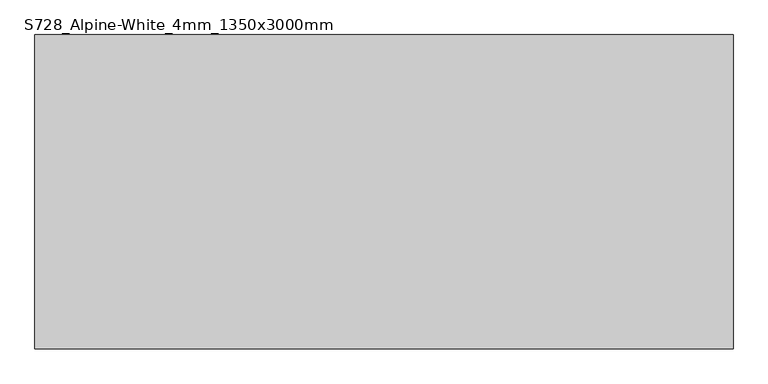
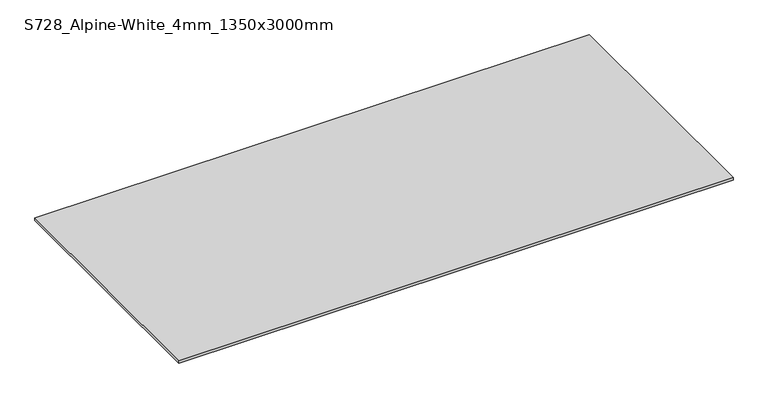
"""IFC4 building model written with IfcOpenShell, lengths in millimetres: proxy geometry, Kitchen_Counter-Tops_Indoor-Material_HI-MACS_Solids : S728_Alpine-White_4mm_1350x3000mm."""

from ifc_helpers import new_model, si_unit, origin, origin_with_axes, place, context, project, spatial, polyline, outline, extrude, source, transform, mapped, element, save


def s728_alpine_white_4mm_1350x3000mm_ca04285e(model_context):
    return source(origin(), model_context, "Body", "SweptSolid", [
        extrude(outline(polyline([(1500.0, 675.0), (1500.0, -675.0), (-1500.0, -675.0), (-1500.0, 675.0), (1500.0, 675.0)])), origin_with_axes(), (0.0, 0.0, 1.0), 12.0),
    ])


if __name__ == "__main__":
    model = new_model("IFC4")
    model_context = context("Model", 3, world=origin())
    ifc_project = project(units=[si_unit("LENGTHUNIT", "METRE", prefix="MILLI")], contexts=[model_context])
    site = spatial("IfcSite", under=ifc_project)
    building = spatial("IfcBuilding", under=site)
    placement = place(None, origin())
    s728_alpine_white_4mm_1350x3000mm_shape = s728_alpine_white_4mm_1350x3000mm_ca04285e(model_context)
    element("IfcBuildingElementProxy", 1, Name="Kitchen_Counter-Tops_Indoor-Material_HI-MACS_Solids : S728_Alpine-White_4mm_1350x3000mm", ObjectType="Kitchen_Counter-Tops_Indoor-Material_HI-MACS_Solids : S728_Alpine-White_4mm_1350x3000mm", at=placement, inside=building, context=model_context, shape_type="MappedRepresentation", body=[
        mapped(s728_alpine_white_4mm_1350x3000mm_shape, transform((0.0, 0.0, 0.0), x_axis=(1.0, 0.0, 0.0), y_axis=(0.0, 1.0, 0.0), z_axis=(0.0, 0.0, 1.0))),
    ])
    save(model, "model.ifc")
